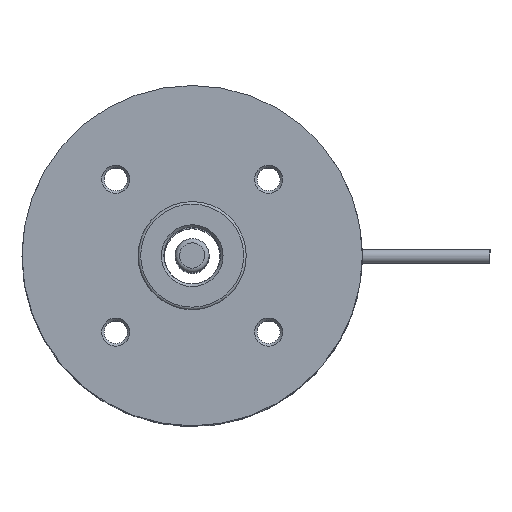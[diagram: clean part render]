
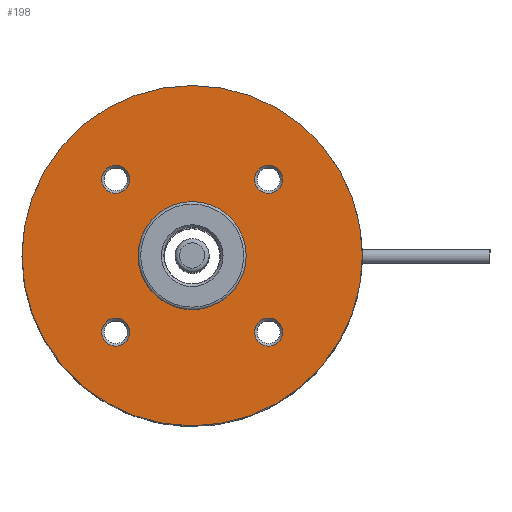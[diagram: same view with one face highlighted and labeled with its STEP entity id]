
A CAD part, top view. The second image highlights one B-rep face of the part: STEP entity #198.
In plain terms, the highlighted planar face has unit normal (0, 0, 1).
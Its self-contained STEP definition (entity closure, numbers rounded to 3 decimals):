
#123=CARTESIAN_POINT('',(-8.98,-7.33,2.6));
#124=VERTEX_POINT('',#123);
#125=CARTESIAN_POINT('',(-8.98,-8.98,2.6));
#126=DIRECTION('',(0.0,0.0,1.0));
#127=DIRECTION('',(0.0,-1.0,0.0));
#128=AXIS2_PLACEMENT_3D('',#125,#126,#127);
#129=CIRCLE('',#128,1.65);
#130=EDGE_CURVE('',#124,#124,#129,.T.);
#135=CARTESIAN_POINT('',(0.0,0.0,2.6));
#136=DIRECTION('',(0.0,0.0,-1.0));
#137=DIRECTION('',(-1.0,0.0,0.0));
#138=AXIS2_PLACEMENT_3D('',#135,#136,#137);
#139=PLANE('',#138);
#140=CARTESIAN_POINT('',(20.0,0.,2.6));
#141=VERTEX_POINT('',#140);
#142=CARTESIAN_POINT('',(0.0,0.0,2.6));
#143=DIRECTION('',(0.0,0.0,-1.0));
#144=DIRECTION('',(-1.0,0.0,0.0));
#145=AXIS2_PLACEMENT_3D('',#142,#143,#144);
#146=CIRCLE('',#145,20.0);
#147=EDGE_CURVE('',#141,#141,#146,.T.);
#148=ORIENTED_EDGE('',*,*,#147,.F.);
#149=EDGE_LOOP('',(#148));
#150=FACE_OUTER_BOUND('',#149,.T.);
#151=CARTESIAN_POINT('',(7.33,-8.98,2.6));
#152=VERTEX_POINT('',#151);
#153=CARTESIAN_POINT('',(8.98,-8.98,2.6));
#154=DIRECTION('',(0.0,0.0,1.0));
#155=DIRECTION('',(1.0,0.0,0.0));
#156=AXIS2_PLACEMENT_3D('',#153,#154,#155);
#157=CIRCLE('',#156,1.65);
#158=EDGE_CURVE('',#152,#152,#157,.T.);
#159=ORIENTED_EDGE('',*,*,#158,.F.);
#160=EDGE_LOOP('',(#159));
#161=FACE_BOUND('',#160,.T.);
#162=CARTESIAN_POINT('',(-7.33,8.98,2.6));
#163=VERTEX_POINT('',#162);
#164=CARTESIAN_POINT('',(-8.98,8.98,2.6));
#165=DIRECTION('',(0.0,0.0,1.0));
#166=DIRECTION('',(-1.0,0.0,0.0));
#167=AXIS2_PLACEMENT_3D('',#164,#165,#166);
#168=CIRCLE('',#167,1.65);
#169=EDGE_CURVE('',#163,#163,#168,.T.);
#170=ORIENTED_EDGE('',*,*,#169,.F.);
#171=EDGE_LOOP('',(#170));
#172=FACE_BOUND('',#171,.T.);
#173=CARTESIAN_POINT('',(6.35,0.,2.6));
#174=VERTEX_POINT('',#173);
#175=CARTESIAN_POINT('',(0.0,0.0,2.6));
#176=DIRECTION('',(0.0,0.0,-1.0));
#177=DIRECTION('',(-1.0,0.0,0.0));
#178=AXIS2_PLACEMENT_3D('',#175,#176,#177);
#179=CIRCLE('',#178,6.35);
#180=EDGE_CURVE('',#174,#174,#179,.T.);
#181=ORIENTED_EDGE('',*,*,#180,.T.);
#182=EDGE_LOOP('',(#181));
#183=FACE_BOUND('',#182,.T.);
#184=CARTESIAN_POINT('',(8.98,7.33,2.6));
#185=VERTEX_POINT('',#184);
#186=CARTESIAN_POINT('',(8.98,8.98,2.6));
#187=DIRECTION('',(0.0,0.0,1.0));
#188=DIRECTION('',(0.0,1.0,0.0));
#189=AXIS2_PLACEMENT_3D('',#186,#187,#188);
#190=CIRCLE('',#189,1.65);
#191=EDGE_CURVE('',#185,#185,#190,.T.);
#192=ORIENTED_EDGE('',*,*,#191,.F.);
#193=EDGE_LOOP('',(#192));
#194=FACE_BOUND('',#193,.T.);
#195=ORIENTED_EDGE('',*,*,#130,.F.);
#196=EDGE_LOOP('',(#195));
#197=FACE_BOUND('',#196,.T.);
#198=ADVANCED_FACE('',(#150,#161,#172,#183,#194,#197),#139,.F.);
